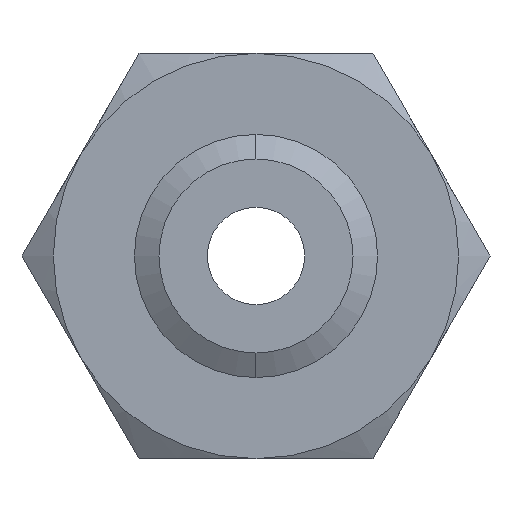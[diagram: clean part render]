
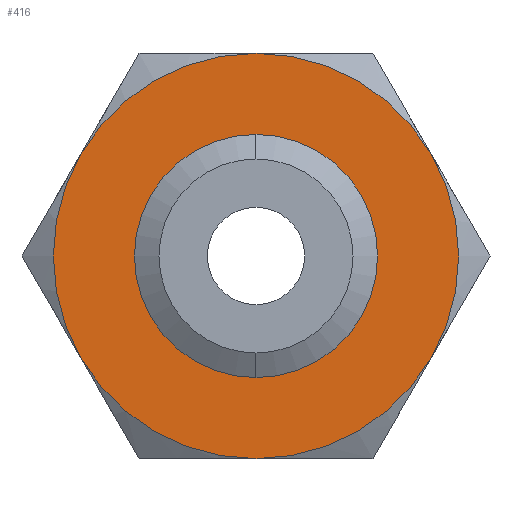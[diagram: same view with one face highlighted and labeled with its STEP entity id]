
A CAD part, front view. The second image highlights one B-rep face of the part: STEP entity #416.
In plain terms, the highlighted planar face has unit normal (0, -1, 0).
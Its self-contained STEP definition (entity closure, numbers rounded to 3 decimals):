
#280 = EDGE_LOOP ( 'NONE', ( #392, #395, #405, #389, #322, #327 ) ) ;
#296 = ORIENTED_EDGE ( 'NONE', *, *, #1999, .F. ) ;
#321 = EDGE_CURVE ( 'NONE', #323, #387, #1072, .T. ) ;
#322 = ORIENTED_EDGE ( 'NONE', *, *, #321, .F. ) ;
#323 = VERTEX_POINT ( 'NONE', #1068 ) ;
#324 = EDGE_CURVE ( 'NONE', #394, #323, #1063, .T. ) ;
#326 = EDGE_LOOP ( 'NONE', ( #296, #358 ) ) ;
#327 = ORIENTED_EDGE ( 'NONE', *, *, #324, .F. ) ;
#358 = ORIENTED_EDGE ( 'NONE', *, *, #359, .F. ) ;
#359 = EDGE_CURVE ( 'NONE', #2000, #1981, #1121, .T. ) ;
#386 = EDGE_CURVE ( 'NONE', #387, #391, #1218, .T. ) ;
#387 = VERTEX_POINT ( 'NONE', #1213 ) ;
#389 = ORIENTED_EDGE ( 'NONE', *, *, #386, .F. ) ;
#391 = VERTEX_POINT ( 'NONE', #1212 ) ;
#392 = ORIENTED_EDGE ( 'NONE', *, *, #415, .F. ) ;
#393 = VERTEX_POINT ( 'NONE', #1211 ) ;
#394 = VERTEX_POINT ( 'NONE', #1210 ) ;
#395 = ORIENTED_EDGE ( 'NONE', *, *, #407, .F. ) ;
#403 = VERTEX_POINT ( 'NONE', #1209 ) ;
#404 = EDGE_CURVE ( 'NONE', #391, #403, #1208, .T. ) ;
#405 = ORIENTED_EDGE ( 'NONE', *, *, #404, .F. ) ;
#407 = EDGE_CURVE ( 'NONE', #403, #393, #1271, .T. ) ;
#415 = EDGE_CURVE ( 'NONE', #393, #394, #1265, .T. ) ;
#416 = ADVANCED_FACE ( 'NONE', ( #1260, #1259 ), #1258, .F. ) ;
#1059 = DIRECTION ( 'NONE',  ( 0., 0., 1. ) ) ;
#1060 = DIRECTION ( 'NONE',  ( 0., 1., 0. ) ) ;
#1061 = CARTESIAN_POINT ( 'NONE',  ( 0., 0., 0. ) ) ;
#1062 = AXIS2_PLACEMENT_3D ( 'NONE', #1061, #1060, #1059 ) ;
#1063 = CIRCLE ( 'NONE', #1062, 25. ) ;
#1064 = DIRECTION ( 'NONE',  ( 0., 0., 1. ) ) ;
#1065 = DIRECTION ( 'NONE',  ( 0., 1., 0. ) ) ;
#1066 = CARTESIAN_POINT ( 'NONE',  ( 0., 0., 0. ) ) ;
#1067 = AXIS2_PLACEMENT_3D ( 'NONE', #1066, #1065, #1064 ) ;
#1068 = CARTESIAN_POINT ( 'NONE',  ( 21.651, 0., -12.5 ) ) ;
#1072 = CIRCLE ( 'NONE', #1067, 25. ) ;
#1121 = CIRCLE ( 'NONE', #1176, 11.969 ) ;
#1173 = DIRECTION ( 'NONE',  ( 0., 0., -1. ) ) ;
#1174 = DIRECTION ( 'NONE',  ( 0., -1., 0. ) ) ;
#1175 = CARTESIAN_POINT ( 'NONE',  ( 0., 0., 0. ) ) ;
#1176 = AXIS2_PLACEMENT_3D ( 'NONE', #1175, #1174, #1173 ) ;
#1203 = CARTESIAN_POINT ( 'NONE',  ( 0., 0., 0. ) ) ;
#1204 = DIRECTION ( 'NONE',  ( 0., 0., 1. ) ) ;
#1205 = DIRECTION ( 'NONE',  ( 0., 1., 0. ) ) ;
#1206 = CARTESIAN_POINT ( 'NONE',  ( 0., 0., 0. ) ) ;
#1207 = AXIS2_PLACEMENT_3D ( 'NONE', #1206, #1205, #1204 ) ;
#1208 = CIRCLE ( 'NONE', #1207, 25. ) ;
#1209 = CARTESIAN_POINT ( 'NONE',  ( -21.651, 0., 12.5 ) ) ;
#1210 = CARTESIAN_POINT ( 'NONE',  ( 21.651, 0., 12.5 ) ) ;
#1211 = CARTESIAN_POINT ( 'NONE',  ( 0., 0., 25. ) ) ;
#1212 = CARTESIAN_POINT ( 'NONE',  ( -21.651, 0., -12.5 ) ) ;
#1213 = CARTESIAN_POINT ( 'NONE',  ( 0., 0., -25. ) ) ;
#1214 = DIRECTION ( 'NONE',  ( 0., 0., 1. ) ) ;
#1215 = DIRECTION ( 'NONE',  ( 0., 1., 0. ) ) ;
#1216 = CARTESIAN_POINT ( 'NONE',  ( 0., 0., 0. ) ) ;
#1217 = AXIS2_PLACEMENT_3D ( 'NONE', #1216, #1215, #1214 ) ;
#1218 = CIRCLE ( 'NONE', #1217, 25. ) ;
#1253 = DIRECTION ( 'NONE',  ( 0., 0., 1. ) ) ;
#1254 = DIRECTION ( 'NONE',  ( 0., 1., 0. ) ) ;
#1255 = CARTESIAN_POINT ( 'NONE',  ( 14.434, 0., -25. ) ) ;
#1257 = AXIS2_PLACEMENT_3D ( 'NONE', #1255, #1254, #1253 ) ;
#1258 = PLANE ( 'NONE',  #1257 ) ;
#1259 = FACE_BOUND ( 'NONE', #326, .T. ) ;
#1260 = FACE_OUTER_BOUND ( 'NONE', #280, .T. ) ;
#1261 = DIRECTION ( 'NONE',  ( 0., 0., 1. ) ) ;
#1262 = DIRECTION ( 'NONE',  ( 0., 1., 0. ) ) ;
#1263 = CARTESIAN_POINT ( 'NONE',  ( 0., 0., 0. ) ) ;
#1264 = AXIS2_PLACEMENT_3D ( 'NONE', #1263, #1262, #1261 ) ;
#1265 = CIRCLE ( 'NONE', #1264, 25. ) ;
#1268 = DIRECTION ( 'NONE',  ( 0., 0., 1. ) ) ;
#1269 = DIRECTION ( 'NONE',  ( 0., 1., 0. ) ) ;
#1270 = AXIS2_PLACEMENT_3D ( 'NONE', #1203, #1269, #1268 ) ;
#1271 = CIRCLE ( 'NONE', #1270, 25. ) ;
#1433 = CARTESIAN_POINT ( 'NONE',  ( 0., 0., -11.969 ) ) ;
#1466 = CARTESIAN_POINT ( 'NONE',  ( 0., 0., 11.969 ) ) ;
#1467 = DIRECTION ( 'NONE',  ( 0., 0., -1. ) ) ;
#1468 = DIRECTION ( 'NONE',  ( 0., -1., 0. ) ) ;
#1469 = CARTESIAN_POINT ( 'NONE',  ( 0., 0., 0. ) ) ;
#1470 = AXIS2_PLACEMENT_3D ( 'NONE', #1469, #1468, #1467 ) ;
#1471 = CIRCLE ( 'NONE', #1470, 11.969 ) ;
#1981 = VERTEX_POINT ( 'NONE', #1433 ) ;
#1999 = EDGE_CURVE ( 'NONE', #1981, #2000, #1471, .T. ) ;
#2000 = VERTEX_POINT ( 'NONE', #1466 ) ;
